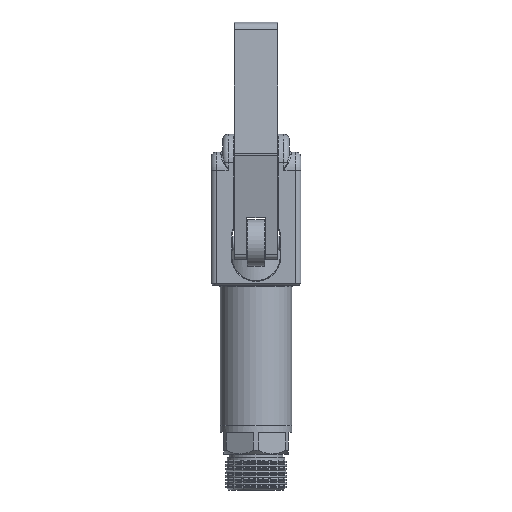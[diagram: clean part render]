
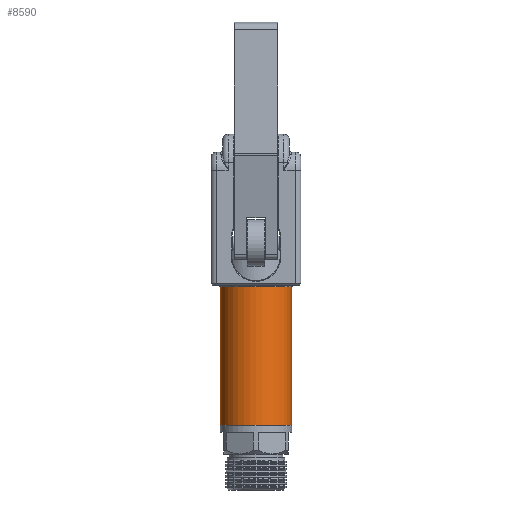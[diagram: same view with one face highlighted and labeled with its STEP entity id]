
A CAD part, front view. The second image highlights one B-rep face of the part: STEP entity #8590.
In plain terms, the highlighted cylindrical face has radius 10 mm (diameter 20 mm), a full revolution.
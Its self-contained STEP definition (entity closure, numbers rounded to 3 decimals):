
#8342=CYLINDRICAL_SURFACE('',#21753,10.);
#8590=ADVANCED_FACE('',(#9806,#9807),#8342,.T.);
#9806=FACE_BOUND('',#10156,.T.);
#9807=FACE_BOUND('',#10157,.T.);
#10156=EDGE_LOOP('',(#11976));
#10157=EDGE_LOOP('',(#11977));
#11976=ORIENTED_EDGE('',*,*,#18713,.T.);
#11977=ORIENTED_EDGE('',*,*,#18712,.T.);
#16976=VERTEX_POINT('',#29671);
#16977=VERTEX_POINT('',#29674);
#18712=EDGE_CURVE('',#16976,#16976,#21238,.T.);
#18713=EDGE_CURVE('',#16977,#16977,#21239,.T.);
#21238=CIRCLE('',#21750,10.);
#21239=CIRCLE('',#21752,10.);
#21750=AXIS2_PLACEMENT_3D('',#29670,#23800,#23801);
#21752=AXIS2_PLACEMENT_3D('',#29673,#23804,#23805);
#21753=AXIS2_PLACEMENT_3D('',#29675,#23806,#23807);
#23800=DIRECTION('',(0.,0.,-1.));
#23801=DIRECTION('',(1.,0.,0.));
#23804=DIRECTION('',(0.,0.,1.));
#23805=DIRECTION('',(0.,-1.,0.));
#23806=DIRECTION('',(0.,0.,-1.));
#23807=DIRECTION('',(1.,0.,0.));
#29670=CARTESIAN_POINT('',(-4.483,3.262,89.5));
#29671=CARTESIAN_POINT('',(5.517,3.262,89.5));
#29673=CARTESIAN_POINT('',(-4.483,3.262,51.));
#29674=CARTESIAN_POINT('',(-4.483,-6.738,51.));
#29675=CARTESIAN_POINT('',(-4.483,3.262,90.));
